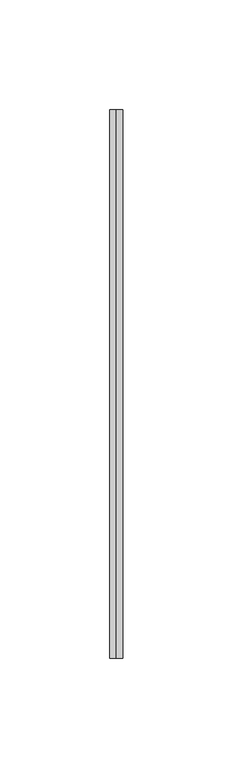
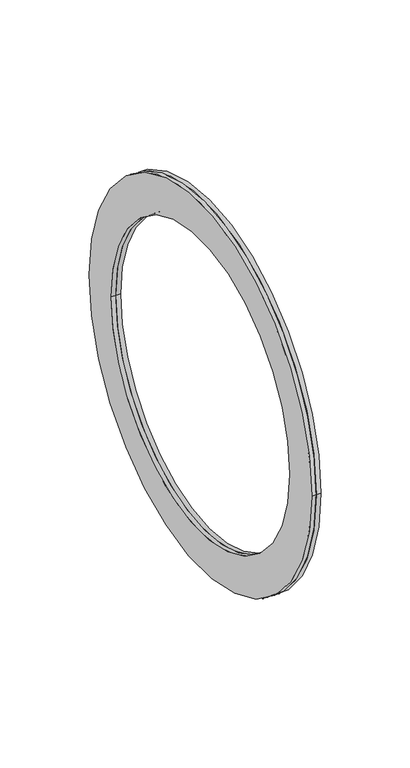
"""IFC4 building model written with IfcOpenShell, lengths in millimetres: duct fitting geometry, BL_ФланецВоздуховдов-Двойной_Круглый : BL_ФланецВоздуховдов-Двойной_Круглый."""

from ifc_helpers import new_model, si_unit, point, frame, frame_2d, origin, place, context, project, spatial, circle_curve, trimmed, segment, composite_curve, outline, extrude, source, transform, mapped, element, save


def duct_fitting_3f762420(model_context):
    return source(origin(), model_context, "Body", "SweptSolid", [
        extrude(outline(composite_curve([segment(trimmed(circle_curve(frame_2d((-45.6742229, 0.0)), 125.0), [point((-170.6742229, 0.0))], [point((79.3257771, 0.0))], False, "CARTESIAN"), True, "CONTINUOUS"), segment(trimmed(circle_curve(frame_2d((-45.6742229, 0.0)), 125.0), [point((79.3257771, 0.0))], [point((-170.6742229, 0.0))], False, "CARTESIAN"), True, "CONTINUOUS")], self_intersect=False), holes=[composite_curve([segment(trimmed(circle_curve(frame_2d((-45.6742229, 0.0)), 100.0), [point((-145.6742229, 0.0))], [point((54.3257771, 0.0))], True, "CARTESIAN"), True, "CONTINUOUS"), segment(trimmed(circle_curve(frame_2d((-45.6742229, 0.0)), 100.0), [point((54.3257771, 0.0))], [point((-145.6742229, 0.0))], True, "CARTESIAN"), True, "CONTINUOUS")], self_intersect=False)]), frame((0.0, 0.0, 0.0), z_axis=(1.0, 0.0, 0.0), x_axis=(0.0, 1.0, 0.0)), (0.0, 0.0, 1.0), 3.0),
        extrude(outline(composite_curve([segment(trimmed(circle_curve(frame_2d((-45.6742229, 0.0)), 125.0), [point((-170.6742229, 0.0))], [point((79.3257771, 0.0))], False, "CARTESIAN"), True, "CONTINUOUS"), segment(trimmed(circle_curve(frame_2d((-45.6742229, 0.0)), 125.0), [point((79.3257771, 0.0))], [point((-170.6742229, 0.0))], False, "CARTESIAN"), True, "CONTINUOUS")], self_intersect=False), holes=[composite_curve([segment(trimmed(circle_curve(frame_2d((-45.6742229, 0.0)), 100.0), [point((-145.6742229, 0.0))], [point((54.3257771, 0.0))], True, "CARTESIAN"), True, "CONTINUOUS"), segment(trimmed(circle_curve(frame_2d((-45.6742229, 0.0)), 100.0), [point((54.3257771, 0.0))], [point((-145.6742229, 0.0))], True, "CARTESIAN"), True, "CONTINUOUS")], self_intersect=False)]), frame((-3.0, 0.0, 0.0), z_axis=(1.0, 0.0, 0.0), x_axis=(0.0, 1.0, 0.0)), (0.0, 0.0, 1.0), 3.0),
    ])


if __name__ == "__main__":
    model = new_model("IFC4")
    model_context = context("Model", 3, world=origin())
    ifc_project = project(units=[si_unit("LENGTHUNIT", "METRE", prefix="MILLI")], contexts=[model_context])
    site = spatial("IfcSite", under=ifc_project)
    building = spatial("IfcBuilding", under=site)
    placement = place(None, origin())
    duct_fitting_shape = duct_fitting_3f762420(model_context)
    element("IfcDuctFitting", 1, ObjectType="BL_ФланецВоздуховдов-Двойной_Круглый : BL_ФланецВоздуховдов-Двойной_Круглый", at=placement, inside=building, context=model_context, shape_type="MappedRepresentation", body=[
        mapped(duct_fitting_shape, transform((0.0, 0.0, 0.0), x_axis=(1.0, 0.0, 0.0), y_axis=(0.0, 1.0, 0.0), z_axis=(0.0, 0.0, 1.0))),
    ])
    save(model, "model.ifc")
